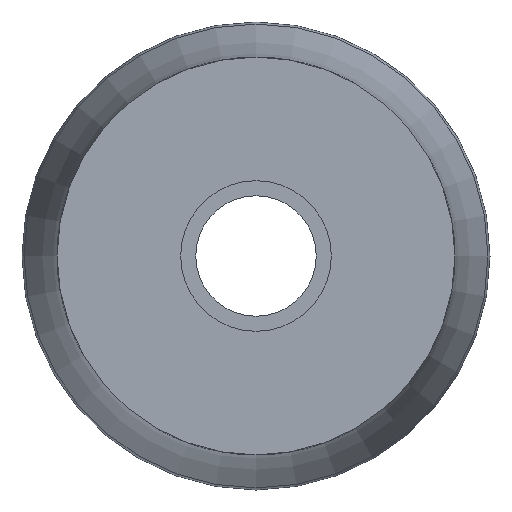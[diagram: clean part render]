
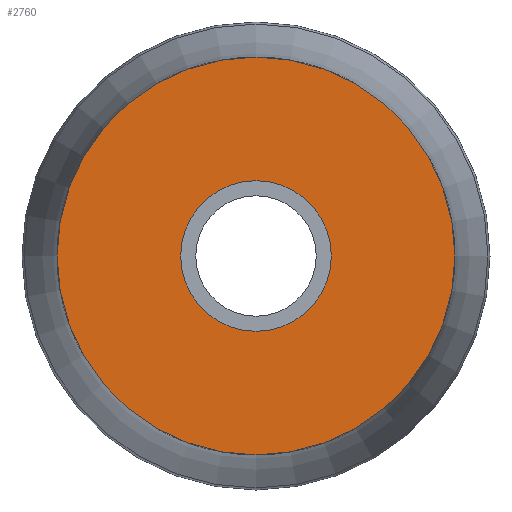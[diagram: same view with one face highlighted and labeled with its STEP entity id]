
A CAD part, left-side view. The second image highlights one B-rep face of the part: STEP entity #2760.
In plain terms, the highlighted planar face has unit normal (-1, 0, 0).
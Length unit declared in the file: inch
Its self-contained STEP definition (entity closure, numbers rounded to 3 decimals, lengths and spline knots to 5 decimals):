
#38=FACE_BOUND('',#736,.T.);
#121=PLANE('',#3102);
#571=FACE_OUTER_BOUND('',#735,.T.);
#735=EDGE_LOOP('',(#2367,#2368));
#736=EDGE_LOOP('',(#2369,#2370));
#910=CIRCLE('',#3100,0.36675);
#911=CIRCLE('',#3101,0.36675);
#912=CIRCLE('',#3103,0.969);
#913=CIRCLE('',#3104,0.969);
#1226=VERTEX_POINT('',#5597);
#1227=VERTEX_POINT('',#5599);
#1228=VERTEX_POINT('',#5603);
#1229=VERTEX_POINT('',#5604);
#1613=EDGE_CURVE('',#1227,#1226,#910,.T.);
#1614=EDGE_CURVE('',#1226,#1227,#911,.T.);
#1615=EDGE_CURVE('',#1228,#1229,#912,.T.);
#1616=EDGE_CURVE('',#1229,#1228,#913,.T.);
#2367=ORIENTED_EDGE('',*,*,#1615,.F.);
#2368=ORIENTED_EDGE('',*,*,#1616,.F.);
#2369=ORIENTED_EDGE('',*,*,#1613,.T.);
#2370=ORIENTED_EDGE('',*,*,#1614,.T.);
#2760=ADVANCED_FACE('',(#571,#38),#121,.T.);
#3100=AXIS2_PLACEMENT_3D('',#5600,#3891,#3892);
#3101=AXIS2_PLACEMENT_3D('',#5601,#3893,#3894);
#3102=AXIS2_PLACEMENT_3D('',#5602,#3895,#3896);
#3103=AXIS2_PLACEMENT_3D('',#5605,#3897,#3898);
#3104=AXIS2_PLACEMENT_3D('',#5606,#3899,#3900);
#3891=DIRECTION('center_axis',(1.,0.,0.));
#3892=DIRECTION('ref_axis',(0.,0.,-1.));
#3893=DIRECTION('center_axis',(1.,0.,0.));
#3894=DIRECTION('ref_axis',(0.,0.,-1.));
#3895=DIRECTION('center_axis',(-1.,0.,0.));
#3896=DIRECTION('ref_axis',(0.,0.,1.));
#3897=DIRECTION('center_axis',(1.,0.,0.));
#3898=DIRECTION('ref_axis',(0.,0.,-1.));
#3899=DIRECTION('center_axis',(1.,0.,0.));
#3900=DIRECTION('ref_axis',(0.,0.,-1.));
#5597=CARTESIAN_POINT('',(-1.06,-0.36675,0.));
#5599=CARTESIAN_POINT('',(-1.06,0.36675,0.));
#5600=CARTESIAN_POINT('Origin',(-1.06,0.,0.));
#5601=CARTESIAN_POINT('Origin',(-1.06,0.,0.));
#5602=CARTESIAN_POINT('Origin',(-1.06,0.969,0.));
#5603=CARTESIAN_POINT('',(-1.06,0.969,0.));
#5604=CARTESIAN_POINT('',(-1.06,-0.969,0.));
#5605=CARTESIAN_POINT('Origin',(-1.06,0.,0.));
#5606=CARTESIAN_POINT('Origin',(-1.06,0.,0.));
